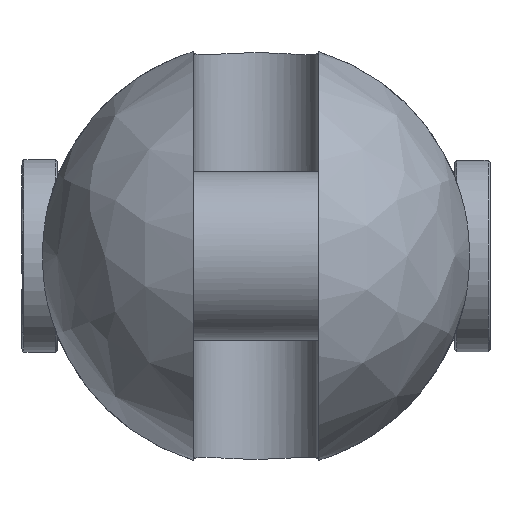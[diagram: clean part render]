
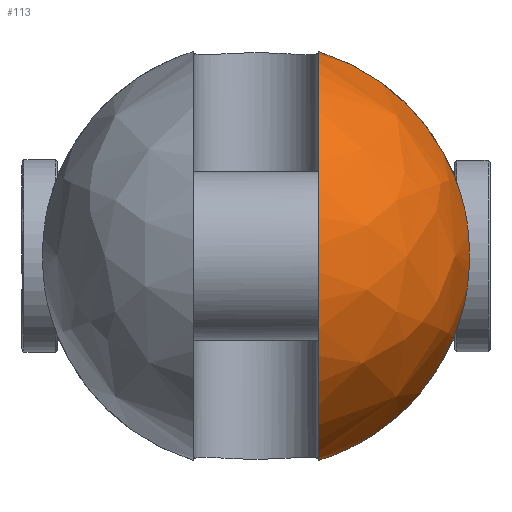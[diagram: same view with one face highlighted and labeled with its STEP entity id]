
A CAD part, left-side view. The second image highlights one B-rep face of the part: STEP entity #113.
In plain terms, the highlighted free-form (B-spline) face has degree [2, 2] with [9, 5] control points.
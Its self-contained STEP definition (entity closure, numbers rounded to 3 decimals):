
#113=ADVANCED_FACE('',(#200),#1527,.T.);
#200=FACE_OUTER_BOUND('',#299,.T.);
#299=EDGE_LOOP('',(#741,#742,#743,#744));
#741=ORIENTED_EDGE('',*,*,#999,.T.);
#742=ORIENTED_EDGE('',*,*,#996,.F.);
#743=ORIENTED_EDGE('',*,*,#1015,.T.);
#744=ORIENTED_EDGE('',*,*,#988,.F.);
#988=EDGE_CURVE('',#1418,#1419,#1249,.T.);
#996=EDGE_CURVE('',#1426,#1427,#1250,.T.);
#999=EDGE_CURVE('',#1418,#1427,#1252,.T.);
#1015=EDGE_CURVE('',#1426,#1419,#1123,.T.);
#1123=B_SPLINE_CURVE_WITH_KNOTS('',3,(#3616,#3617,#3618,#3619,#3620,#3621,
#3622,#3623,#3624,#3625,#3626,#3627,#3628,#3629),.UNSPECIFIED.,.F.,.F.,
(4,2,2,2,2,2,4),(0.,0.978,6.792,12.605,
18.419,24.233,25.211),.UNSPECIFIED.);
#1249=(
BOUNDED_CURVE()
B_SPLINE_CURVE(2,(#3468,#3469,#3470),.UNSPECIFIED.,.F.,.F.)
B_SPLINE_CURVE_WITH_KNOTS((3,3),(0.,57.27),.UNSPECIFIED.)
CURVE()
GEOMETRIC_REPRESENTATION_ITEM()
RATIONAL_B_SPLINE_CURVE((1.,0.865,1.))
REPRESENTATION_ITEM('')
);
#1250=(
BOUNDED_CURVE()
B_SPLINE_CURVE(2,(#3525,#3526,#3527),.UNSPECIFIED.,.F.,.F.)
B_SPLINE_CURVE_WITH_KNOTS((3,3),(0.,57.27),.UNSPECIFIED.)
CURVE()
GEOMETRIC_REPRESENTATION_ITEM()
RATIONAL_B_SPLINE_CURVE((1.,0.865,1.))
REPRESENTATION_ITEM('')
);
#1252=(
BOUNDED_CURVE()
B_SPLINE_CURVE(2,(#3533,#3534,#3535,#3536,#3537),.UNSPECIFIED.,.F.,.F.)
B_SPLINE_CURVE_WITH_KNOTS((3,2,3),(-163.672,-81.836,
0.),.UNSPECIFIED.)
CURVE()
GEOMETRIC_REPRESENTATION_ITEM()
RATIONAL_B_SPLINE_CURVE((1.,0.707,1.,0.707,1.))
REPRESENTATION_ITEM('')
);
#1418=VERTEX_POINT('',#3274);
#1419=VERTEX_POINT('',#3275);
#1426=VERTEX_POINT('',#3282);
#1427=VERTEX_POINT('',#3283);
#1527=(
BOUNDED_SURFACE()
B_SPLINE_SURFACE(2,2,((#3146,#3147,#3148,#3149,#3150),(#3151,#3152,#3153,
#3154,#3155),(#3156,#3157,#3158,#3159,#3160),(#3161,#3162,#3163,#3164,#3165),
(#3166,#3167,#3168,#3169,#3170),(#3171,#3172,#3173,#3174,#3175),(#3176,
#3177,#3178,#3179,#3180),(#3181,#3182,#3183,#3184,#3185),(#3186,#3187,#3188,
#3189,#3190)),.UNSPECIFIED.,.T.,.F.,.F.)
B_SPLINE_SURFACE_WITH_KNOTS((3,2,2,2,3),(3,2,3),(0.,85.608,171.217,
256.825,342.434),(0.,85.608,171.217),
 .UNSPECIFIED.)
GEOMETRIC_REPRESENTATION_ITEM()
RATIONAL_B_SPLINE_SURFACE(((1.,0.707,1.,0.707,1.),
(0.707,0.5,0.707,0.5,0.707),(1.,0.707,
1.,0.707,1.),(0.707,0.5,0.707,0.5,0.707),
(1.,0.707,1.,0.707,1.),(0.707,0.5,0.707,
0.5,0.707),(1.,0.707,1.,0.707,1.),(0.707,
0.5,0.707,0.5,0.707),(1.,0.707,1.,0.707,
1.)))
REPRESENTATION_ITEM('')
SURFACE()
);
#3146=CARTESIAN_POINT('',(-77.,0.,0.));
#3147=CARTESIAN_POINT('',(-77.,54.5,0.));
#3148=CARTESIAN_POINT('',(-22.5,54.5,0.));
#3149=CARTESIAN_POINT('',(32.,54.5,0.));
#3150=CARTESIAN_POINT('',(32.,0.,0.));
#3151=CARTESIAN_POINT('',(-77.,0.,0.));
#3152=CARTESIAN_POINT('',(-77.,54.5,54.5));
#3153=CARTESIAN_POINT('',(-22.5,54.5,54.5));
#3154=CARTESIAN_POINT('',(32.,54.5,54.5));
#3155=CARTESIAN_POINT('',(32.,0.,0.));
#3156=CARTESIAN_POINT('',(-77.,0.,0.));
#3157=CARTESIAN_POINT('',(-77.,0.,54.5));
#3158=CARTESIAN_POINT('',(-22.5,0.,54.5));
#3159=CARTESIAN_POINT('',(32.,0.,54.5));
#3160=CARTESIAN_POINT('',(32.,0.,0.));
#3161=CARTESIAN_POINT('',(-77.,0.,0.));
#3162=CARTESIAN_POINT('',(-77.,-54.5,54.5));
#3163=CARTESIAN_POINT('',(-22.5,-54.5,54.5));
#3164=CARTESIAN_POINT('',(32.,-54.5,54.5));
#3165=CARTESIAN_POINT('',(32.,0.,0.));
#3166=CARTESIAN_POINT('',(-77.,0.,0.));
#3167=CARTESIAN_POINT('',(-77.,-54.5,0.));
#3168=CARTESIAN_POINT('',(-22.5,-54.5,0.));
#3169=CARTESIAN_POINT('',(32.,-54.5,0.));
#3170=CARTESIAN_POINT('',(32.,0.,0.));
#3171=CARTESIAN_POINT('',(-77.,0.,0.));
#3172=CARTESIAN_POINT('',(-77.,-54.5,-54.5));
#3173=CARTESIAN_POINT('',(-22.5,-54.5,-54.5));
#3174=CARTESIAN_POINT('',(32.,-54.5,-54.5));
#3175=CARTESIAN_POINT('',(32.,0.,0.));
#3176=CARTESIAN_POINT('',(-77.,0.,0.));
#3177=CARTESIAN_POINT('',(-77.,0.,-54.5));
#3178=CARTESIAN_POINT('',(-22.5,0.,-54.5));
#3179=CARTESIAN_POINT('',(32.,0.,-54.5));
#3180=CARTESIAN_POINT('',(32.,0.,0.));
#3181=CARTESIAN_POINT('',(-77.,0.,0.));
#3182=CARTESIAN_POINT('',(-77.,54.5,-54.5));
#3183=CARTESIAN_POINT('',(-22.5,54.5,-54.5));
#3184=CARTESIAN_POINT('',(32.,54.5,-54.5));
#3185=CARTESIAN_POINT('',(32.,0.,0.));
#3186=CARTESIAN_POINT('',(-77.,0.,0.));
#3187=CARTESIAN_POINT('',(-77.,54.5,0.));
#3188=CARTESIAN_POINT('',(-22.5,54.5,0.));
#3189=CARTESIAN_POINT('',(32.,54.5,0.));
#3190=CARTESIAN_POINT('',(32.,0.,0.));
#3274=CARTESIAN_POINT('',(-22.5,-16.,52.098));
#3275=CARTESIAN_POINT('',(-22.5,-53.162,12.));
#3282=CARTESIAN_POINT('',(-22.5,-53.162,-12.));
#3283=CARTESIAN_POINT('',(-22.5,-16.,-52.098));
#3468=CARTESIAN_POINT('',(-22.5,-16.,52.098));
#3469=CARTESIAN_POINT('',(-22.5,-46.205,42.822));
#3470=CARTESIAN_POINT('',(-22.5,-53.162,12.));
#3525=CARTESIAN_POINT('',(-22.5,-53.162,-12.));
#3526=CARTESIAN_POINT('',(-22.5,-46.205,-42.822));
#3527=CARTESIAN_POINT('',(-22.5,-16.,-52.098));
#3533=CARTESIAN_POINT('',(-22.5,-16.,52.098));
#3534=CARTESIAN_POINT('',(-74.598,-16.,52.098));
#3535=CARTESIAN_POINT('',(-74.598,-16.,0.));
#3536=CARTESIAN_POINT('',(-74.598,-16.,-52.098));
#3537=CARTESIAN_POINT('',(-22.5,-16.,-52.098));
#3616=CARTESIAN_POINT('',(-22.5,-53.162,-12.));
#3617=CARTESIAN_POINT('',(-22.652,-53.227,-11.714));
#3618=CARTESIAN_POINT('',(-22.799,-53.289,-11.426));
#3619=CARTESIAN_POINT('',(-23.783,-53.704,-9.4));
#3620=CARTESIAN_POINT('',(-24.431,-53.974,-7.555));
#3621=CARTESIAN_POINT('',(-25.29,-54.331,-3.793));
#3622=CARTESIAN_POINT('',(-25.5,-54.417,-1.874));
#3623=CARTESIAN_POINT('',(-25.5,-54.417,1.874));
#3624=CARTESIAN_POINT('',(-25.29,-54.331,3.793));
#3625=CARTESIAN_POINT('',(-24.431,-53.974,7.555));
#3626=CARTESIAN_POINT('',(-23.783,-53.704,9.4));
#3627=CARTESIAN_POINT('',(-22.799,-53.289,11.426));
#3628=CARTESIAN_POINT('',(-22.652,-53.227,11.714));
#3629=CARTESIAN_POINT('',(-22.5,-53.162,12.));
